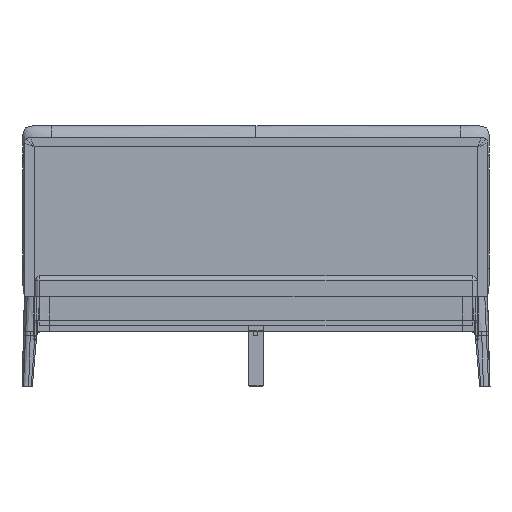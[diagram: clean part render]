
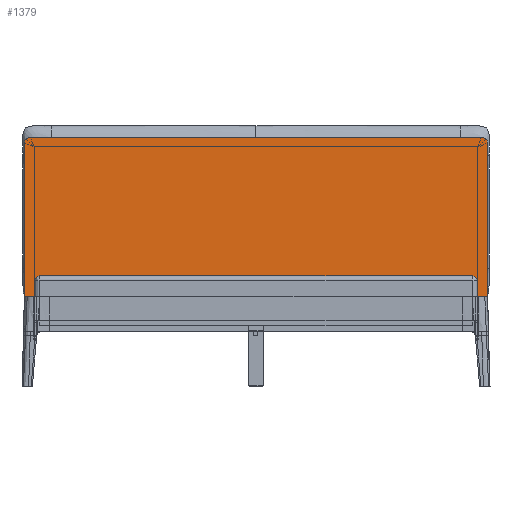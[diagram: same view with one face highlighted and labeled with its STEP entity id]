
A CAD part, front view. The second image highlights one B-rep face of the part: STEP entity #1379.
In plain terms, the highlighted planar face has unit normal (0, -1, 0).
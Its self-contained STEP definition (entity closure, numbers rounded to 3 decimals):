
#1379=ADVANCED_FACE('',(#2428),#14985,.T.);
#2428=FACE_OUTER_BOUND('',#3492,.T.);
#3492=EDGE_LOOP('',(#7713,#7714,#7715,#7716,#7717,#7718));
#7713=ORIENTED_EDGE('',*,*,#10284,.T.);
#7714=ORIENTED_EDGE('',*,*,#10286,.T.);
#7715=ORIENTED_EDGE('',*,*,#10288,.T.);
#7716=ORIENTED_EDGE('',*,*,#10291,.T.);
#7717=ORIENTED_EDGE('',*,*,#10293,.T.);
#7718=ORIENTED_EDGE('',*,*,#10295,.T.);
#10284=EDGE_CURVE('',#14113,#14112,#10774,.T.);
#10286=EDGE_CURVE('',#14112,#14114,#10776,.T.);
#10288=EDGE_CURVE('',#14114,#14116,#10778,.T.);
#10291=EDGE_CURVE('',#14116,#14117,#10781,.T.);
#10293=EDGE_CURVE('',#14117,#14118,#10783,.T.);
#10295=EDGE_CURVE('',#14118,#14113,#10785,.T.);
#10774=(
BOUNDED_CURVE()
B_SPLINE_CURVE(2,(#61425,#61426,#61427),.UNSPECIFIED.,.F.,.F.)
B_SPLINE_CURVE_WITH_KNOTS((3,3),(-12612.08,-11987.08),
 .UNSPECIFIED.)
CURVE()
GEOMETRIC_REPRESENTATION_ITEM()
RATIONAL_B_SPLINE_CURVE((1.,1.,1.))
REPRESENTATION_ITEM('')
);
#10776=(
BOUNDED_CURVE()
B_SPLINE_CURVE(2,(#61430,#61431,#61432),.UNSPECIFIED.,.F.,.F.)
B_SPLINE_CURVE_WITH_KNOTS((3,3),(-11987.08,-10101.08),
 .UNSPECIFIED.)
CURVE()
GEOMETRIC_REPRESENTATION_ITEM()
RATIONAL_B_SPLINE_CURVE((1.,1.,1.))
REPRESENTATION_ITEM('')
);
#10778=(
BOUNDED_CURVE()
B_SPLINE_CURVE(2,(#61435,#61436,#61437),.UNSPECIFIED.,.F.,.F.)
B_SPLINE_CURVE_WITH_KNOTS((3,3),(-10101.08,-9476.08),
 .UNSPECIFIED.)
CURVE()
GEOMETRIC_REPRESENTATION_ITEM()
RATIONAL_B_SPLINE_CURVE((1.,1.,1.))
REPRESENTATION_ITEM('')
);
#10781=(
BOUNDED_CURVE()
B_SPLINE_CURVE(2,(#61443,#61444,#61445),.UNSPECIFIED.,.F.,.F.)
B_SPLINE_CURVE_WITH_KNOTS((3,3),(-9476.08,-9436.81),
 .UNSPECIFIED.)
CURVE()
GEOMETRIC_REPRESENTATION_ITEM()
RATIONAL_B_SPLINE_CURVE((1.,0.707,1.))
REPRESENTATION_ITEM('')
);
#10783=(
BOUNDED_CURVE()
B_SPLINE_CURVE(2,(#61448,#61449,#61450),.UNSPECIFIED.,.F.,.F.)
B_SPLINE_CURVE_WITH_KNOTS((3,3),(-9436.81,-7600.81),
 .UNSPECIFIED.)
CURVE()
GEOMETRIC_REPRESENTATION_ITEM()
RATIONAL_B_SPLINE_CURVE((1.,1.,1.))
REPRESENTATION_ITEM('')
);
#10785=(
BOUNDED_CURVE()
B_SPLINE_CURVE(2,(#61454,#61455,#61456),.UNSPECIFIED.,.F.,.F.)
B_SPLINE_CURVE_WITH_KNOTS((3,3),(-7600.81,-7561.54),
 .UNSPECIFIED.)
CURVE()
GEOMETRIC_REPRESENTATION_ITEM()
RATIONAL_B_SPLINE_CURVE((1.,0.707,1.))
REPRESENTATION_ITEM('')
);
#14112=VERTEX_POINT('',#61304);
#14113=VERTEX_POINT('',#61305);
#14114=VERTEX_POINT('',#61306);
#14116=VERTEX_POINT('',#61308);
#14117=VERTEX_POINT('',#61309);
#14118=VERTEX_POINT('',#61310);
#14985=PLANE('',#15736);
#15736=AXIS2_PLACEMENT_3D('',#61180,#16410,$);
#16410=DIRECTION('',(0.,-1.,0.));
#61180=CARTESIAN_POINT('',(1178.75,-3475.216,1096.25));
#61304=CARTESIAN_POINT('',(-943.,-3475.216,365.));
#61305=CARTESIAN_POINT('',(-943.,-3475.216,990.));
#61306=CARTESIAN_POINT('',(943.,-3475.216,365.));
#61308=CARTESIAN_POINT('',(943.,-3475.216,990.));
#61309=CARTESIAN_POINT('',(918.,-3475.216,1015.));
#61310=CARTESIAN_POINT('',(-918.,-3475.216,1015.));
#61425=CARTESIAN_POINT('',(-943.,-3475.216,990.));
#61426=CARTESIAN_POINT('',(-943.,-3475.216,677.5));
#61427=CARTESIAN_POINT('',(-943.,-3475.216,365.));
#61430=CARTESIAN_POINT('',(-943.,-3475.216,365.));
#61431=CARTESIAN_POINT('',(0.,-3475.216,365.));
#61432=CARTESIAN_POINT('',(943.,-3475.216,365.));
#61435=CARTESIAN_POINT('',(943.,-3475.216,365.));
#61436=CARTESIAN_POINT('',(943.,-3475.216,677.5));
#61437=CARTESIAN_POINT('',(943.,-3475.216,990.));
#61443=CARTESIAN_POINT('',(943.,-3475.216,990.));
#61444=CARTESIAN_POINT('',(943.,-3475.216,1015.));
#61445=CARTESIAN_POINT('',(918.,-3475.216,1015.));
#61448=CARTESIAN_POINT('',(918.,-3475.216,1015.));
#61449=CARTESIAN_POINT('',(0.,-3475.216,1015.));
#61450=CARTESIAN_POINT('',(-918.,-3475.216,1015.));
#61454=CARTESIAN_POINT('',(-918.,-3475.216,1015.));
#61455=CARTESIAN_POINT('',(-943.,-3475.216,1015.));
#61456=CARTESIAN_POINT('',(-943.,-3475.216,990.));
